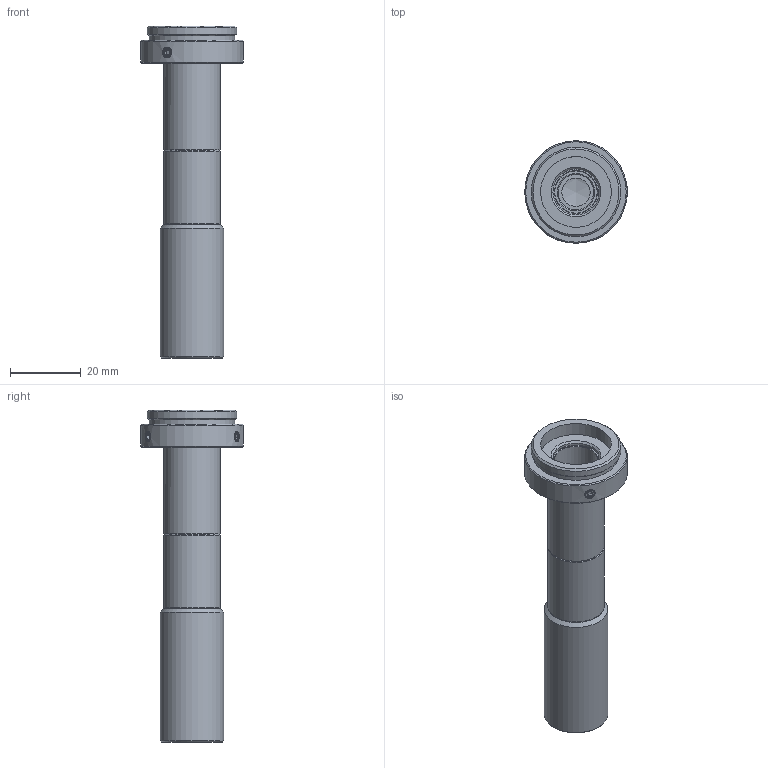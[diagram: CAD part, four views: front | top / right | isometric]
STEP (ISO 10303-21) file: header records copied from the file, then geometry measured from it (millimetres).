
FILE_DESCRIPTION(('STEP AP214'),'1');
FILE_NAME('RTK-0.8-65.stp','2026-03-16T03:01:01',(' '),(' '),'Spatial InterOp 3D',' ',' ');
FILE_SCHEMA(('AUTOMOTIVE_DESIGN { 1 0 10303 214 1 1 1 1 }'));
Length unit declared in the file: metre
Products named in the file (2): RTK-0.8-65; Component1
Assembly tree (1 placements, depth 2):
  RTK-0.8-65
    Component1
Bounding box: 29.01 x 29 x 93.84 mm (x, y, z)
Volume: 12261.7 mm3; surface area: 11185.7 mm2
Topology: 1 solids, 1 shells, 123 faces, 275 edges, 180 vertices
Faces by surface type: cone 50, plane 44, cylinder 24, bspline 3, sphere 2
Full cylindrical faces by diameter (mm): 8 x1, 10 x2, 12 x2, 13 x2, 13.4 x2, 13.5 x1, 13.7 x1, 14.105 x1, 14.2 x1, 15 x1, 15.2 x1, 15.9 x1, 16 x2, 16.77 x1, 18 x1, 20 x1, 24.12 x1, 25.32 x1, 29 x1
Entity records: 4346 total; most frequent: CARTESIAN_POINT 920, DIRECTION 506, ORIENTED_EDGE 388, AXIS2_PLACEMENT_3D 217, EDGE_LOOP 208, EDGE_CURVE 194, VERTEX_POINT 158, FACE_OUTER_BOUND 150
